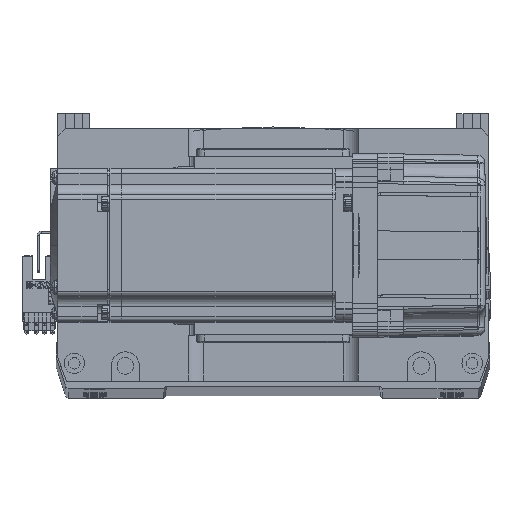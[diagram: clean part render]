
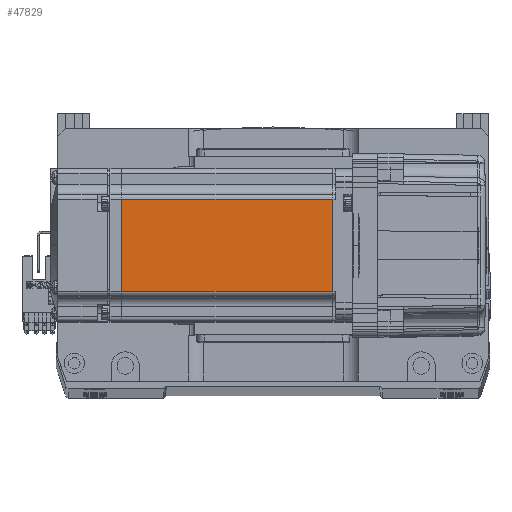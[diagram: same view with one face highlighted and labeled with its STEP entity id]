
A CAD part, top view. The second image highlights one B-rep face of the part: STEP entity #47829.
In plain terms, the highlighted planar face has unit normal (0, 0, 1).
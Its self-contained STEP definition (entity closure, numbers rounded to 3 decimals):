
#2109 = DIRECTION ( 'NONE',  ( 0., -1., 0. ) ) ;
#3807 = LINE ( 'NONE', #43214, #43057 ) ;
#3932 = DIRECTION ( 'NONE',  ( -1., 0., 0. ) ) ;
#4488 = CARTESIAN_POINT ( 'NONE',  ( -6.5, -25., 30. ) ) ;
#10161 = DIRECTION ( 'NONE',  ( 1., 0., 0. ) ) ;
#10400 = EDGE_CURVE ( 'NONE', #26798, #49183, #47904, .T. ) ;
#17328 = ORIENTED_EDGE ( 'NONE', *, *, #64265, .T. ) ;
#18198 = CARTESIAN_POINT ( 'NONE',  ( -7.75, 18., 30. ) ) ;
#18878 = CARTESIAN_POINT ( 'NONE',  ( -90.45, 0., 30. ) ) ;
#19596 = VERTEX_POINT ( 'NONE', #56595 ) ;
#19974 = DIRECTION ( 'NONE',  ( 0., 0., 1. ) ) ;
#21097 = CARTESIAN_POINT ( 'NONE',  ( -90.45, 18., 30. ) ) ;
#22103 = EDGE_LOOP ( 'NONE', ( #37958, #42409, #17328, #55621 ) ) ;
#23648 = AXIS2_PLACEMENT_3D ( 'NONE', #4488, #19974, #10161 ) ;
#25041 = VECTOR ( 'NONE', #61866, 1000. ) ;
#25214 = PLANE ( 'NONE',  #23648 ) ;
#26585 = VECTOR ( 'NONE', #3932, 1000. ) ;
#26798 = VERTEX_POINT ( 'NONE', #18198 ) ;
#29633 = CARTESIAN_POINT ( 'NONE',  ( -6.5, 18., 30. ) ) ;
#37045 = CARTESIAN_POINT ( 'NONE',  ( -7.75, -18., 30. ) ) ;
#37958 = ORIENTED_EDGE ( 'NONE', *, *, #39612, .F. ) ;
#39612 = EDGE_CURVE ( 'NONE', #26798, #57320, #3807, .T. ) ;
#42409 = ORIENTED_EDGE ( 'NONE', *, *, #10400, .T. ) ;
#43057 = VECTOR ( 'NONE', #2109, 1000. ) ;
#43214 = CARTESIAN_POINT ( 'NONE',  ( -7.75, 0., 30. ) ) ;
#47829 = ADVANCED_FACE ( 'NONE', ( #57290 ), #25214, .T. ) ;
#47904 = LINE ( 'NONE', #29633, #26585 ) ;
#49175 = EDGE_CURVE ( 'NONE', #57320, #19596, #54523, .T. ) ;
#49183 = VERTEX_POINT ( 'NONE', #21097 ) ;
#51350 = CARTESIAN_POINT ( 'NONE',  ( -6.5, -18., 30. ) ) ;
#52197 = VECTOR ( 'NONE', #55710, 1000. ) ;
#54523 = LINE ( 'NONE', #51350, #25041 ) ;
#55621 = ORIENTED_EDGE ( 'NONE', *, *, #49175, .F. ) ;
#55710 = DIRECTION ( 'NONE',  ( 0., -1., 0. ) ) ;
#56595 = CARTESIAN_POINT ( 'NONE',  ( -90.45, -18., 30. ) ) ;
#57290 = FACE_OUTER_BOUND ( 'NONE', #22103, .T. ) ;
#57320 = VERTEX_POINT ( 'NONE', #37045 ) ;
#61866 = DIRECTION ( 'NONE',  ( -1., 0., 0. ) ) ;
#64265 = EDGE_CURVE ( 'NONE', #49183, #19596, #67742, .T. ) ;
#67742 = LINE ( 'NONE', #18878, #52197 ) ;
